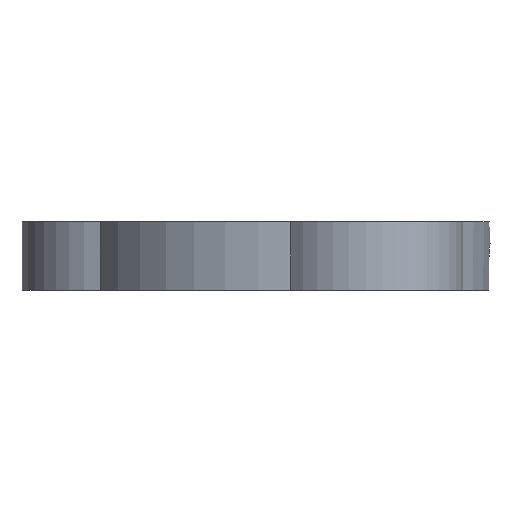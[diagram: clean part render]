
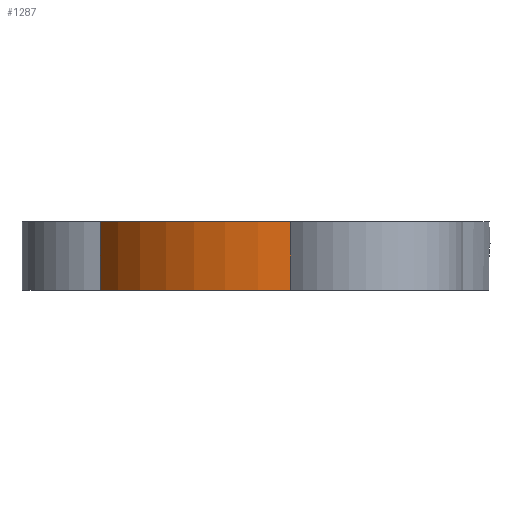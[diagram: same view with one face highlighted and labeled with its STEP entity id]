
A CAD part, left-side view. The second image highlights one B-rep face of the part: STEP entity #1287.
In plain terms, the highlighted cylindrical face has radius 28.7 mm (diameter 57.4 mm), a partial arc.
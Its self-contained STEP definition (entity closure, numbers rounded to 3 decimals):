
#18 = CYLINDRICAL_SURFACE ( 'NONE', #1284, 28.7 ) ;
#103 = EDGE_CURVE ( 'NONE', #1169, #1007, #104, .T. ) ;
#104 = LINE ( 'NONE', #240, #1317 ) ;
#111 = DIRECTION ( 'NONE',  ( 0., 0., 1. ) ) ;
#173 = DIRECTION ( 'NONE',  ( 1., 0., 0. ) ) ;
#240 = CARTESIAN_POINT ( 'NONE',  ( 4.021, -11.107, -12.064 ) ) ;
#322 = CARTESIAN_POINT ( 'NONE',  ( 4.021, -11.107, -2.564 ) ) ;
#372 = CIRCLE ( 'NONE', #1082, 28.7 ) ;
#430 = ORIENTED_EDGE ( 'NONE', *, *, #1084, .F. ) ;
#445 = CARTESIAN_POINT ( 'NONE',  ( 32.7, -10.014, -12.064 ) ) ;
#456 = ORIENTED_EDGE ( 'NONE', *, *, #103, .T. ) ;
#602 = DIRECTION ( 'NONE',  ( 0., 0., 1. ) ) ;
#658 = CARTESIAN_POINT ( 'NONE',  ( 4.021, -11.107, -12.064 ) ) ;
#681 = DIRECTION ( 'NONE',  ( 0., 0., 1. ) ) ;
#692 = VECTOR ( 'NONE', #1788, 1000. ) ;
#710 = LINE ( 'NONE', #1671, #692 ) ;
#803 = CIRCLE ( 'NONE', #1000, 28.7 ) ;
#816 = ORIENTED_EDGE ( 'NONE', *, *, #1469, .F. ) ;
#844 = FACE_OUTER_BOUND ( 'NONE', #1262, .T. ) ;
#851 = CARTESIAN_POINT ( 'NONE',  ( 19.307, 15.369, -2.564 ) ) ;
#866 = VERTEX_POINT ( 'NONE', #851 ) ;
#980 = DIRECTION ( 'NONE',  ( 1., 0., 0. ) ) ;
#985 = CARTESIAN_POINT ( 'NONE',  ( 32.7, -10.014, -12.064 ) ) ;
#1000 = AXIS2_PLACEMENT_3D ( 'NONE', #1199, #681, #1748 ) ;
#1007 = VERTEX_POINT ( 'NONE', #322 ) ;
#1082 = AXIS2_PLACEMENT_3D ( 'NONE', #445, #602, #980 ) ;
#1084 = EDGE_CURVE ( 'NONE', #866, #1007, #803, .T. ) ;
#1169 = VERTEX_POINT ( 'NONE', #658 ) ;
#1199 = CARTESIAN_POINT ( 'NONE',  ( 32.7, -10.014, -2.564 ) ) ;
#1262 = EDGE_LOOP ( 'NONE', ( #456, #430, #816, #1559 ) ) ;
#1284 = AXIS2_PLACEMENT_3D ( 'NONE', #985, #1528, #173 ) ;
#1287 = ADVANCED_FACE ( 'NONE', ( #844 ), #18, .T. ) ;
#1317 = VECTOR ( 'NONE', #111, 1000. ) ;
#1322 = EDGE_CURVE ( 'NONE', #1366, #1169, #372, .T. ) ;
#1324 = CARTESIAN_POINT ( 'NONE',  ( 19.307, 15.369, -12.064 ) ) ;
#1366 = VERTEX_POINT ( 'NONE', #1324 ) ;
#1469 = EDGE_CURVE ( 'NONE', #1366, #866, #710, .T. ) ;
#1528 = DIRECTION ( 'NONE',  ( 0., 0., 1. ) ) ;
#1559 = ORIENTED_EDGE ( 'NONE', *, *, #1322, .T. ) ;
#1671 = CARTESIAN_POINT ( 'NONE',  ( 19.307, 15.369, -12.064 ) ) ;
#1748 = DIRECTION ( 'NONE',  ( 1., 0., 0. ) ) ;
#1788 = DIRECTION ( 'NONE',  ( 0., 0., 1. ) ) ;
